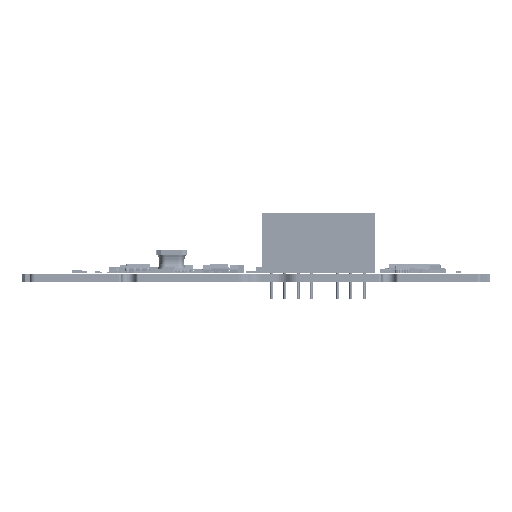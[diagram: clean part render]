
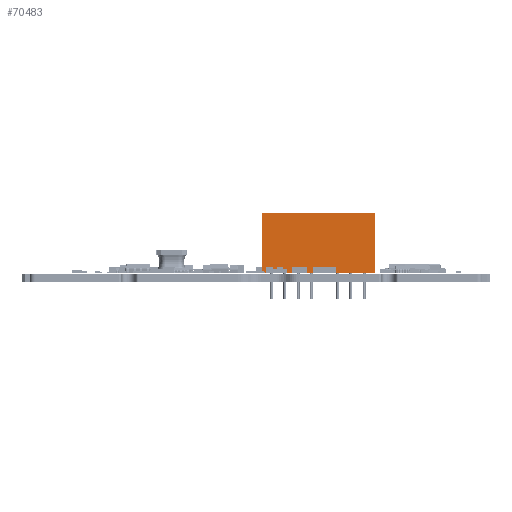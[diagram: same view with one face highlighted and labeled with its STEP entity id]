
A CAD part, front view. The second image highlights one B-rep face of the part: STEP entity #70483.
In plain terms, the highlighted planar face has unit normal (0, -1, 0) as drawn and (1, 0, 0) by its records, which use the part's own axes.
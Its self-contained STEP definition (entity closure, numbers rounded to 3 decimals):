
#70310 = VERTEX_POINT('',#70311);
#70311 = CARTESIAN_POINT('',(3.5,-19.65,0.1));
#70317 = EDGE_CURVE('',#70310,#70318,#70320,.T.);
#70318 = VERTEX_POINT('',#70319);
#70319 = CARTESIAN_POINT('',(3.5,2.15,0.1));
#70320 = LINE('',#70321,#70322);
#70321 = CARTESIAN_POINT('',(3.5,-19.65,0.1));
#70322 = VECTOR('',#70323,1.);
#70323 = DIRECTION('',(0.,1.,0.));
#70439 = EDGE_CURVE('',#70318,#70440,#70442,.T.);
#70440 = VERTEX_POINT('',#70441);
#70441 = CARTESIAN_POINT('',(3.5,2.15,11.7));
#70442 = LINE('',#70443,#70444);
#70443 = CARTESIAN_POINT('',(3.5,2.15,0.1));
#70444 = VECTOR('',#70445,1.);
#70445 = DIRECTION('',(0.,0.,1.));
#70465 = VERTEX_POINT('',#70466);
#70466 = CARTESIAN_POINT('',(3.5,-19.65,11.7));
#70472 = EDGE_CURVE('',#70310,#70465,#70473,.T.);
#70473 = LINE('',#70474,#70475);
#70474 = CARTESIAN_POINT('',(3.5,-19.65,0.1));
#70475 = VECTOR('',#70476,1.);
#70476 = DIRECTION('',(0.,0.,1.));
#70483 = ADVANCED_FACE('',(#70484),#70495,.F.);
#70484 = FACE_BOUND('',#70485,.F.);
#70485 = EDGE_LOOP('',(#70486,#70487,#70493,#70494));
#70486 = ORIENTED_EDGE('',*,*,#70472,.T.);
#70487 = ORIENTED_EDGE('',*,*,#70488,.T.);
#70488 = EDGE_CURVE('',#70465,#70440,#70489,.T.);
#70489 = LINE('',#70490,#70491);
#70490 = CARTESIAN_POINT('',(3.5,-19.65,11.7));
#70491 = VECTOR('',#70492,1.);
#70492 = DIRECTION('',(0.,1.,0.));
#70493 = ORIENTED_EDGE('',*,*,#70439,.F.);
#70494 = ORIENTED_EDGE('',*,*,#70317,.F.);
#70495 = PLANE('',#70496);
#70496 = AXIS2_PLACEMENT_3D('',#70497,#70498,#70499);
#70497 = CARTESIAN_POINT('',(3.5,-19.65,0.1));
#70498 = DIRECTION('',(-1.,0.,0.));
#70499 = DIRECTION('',(0.,1.,0.));
